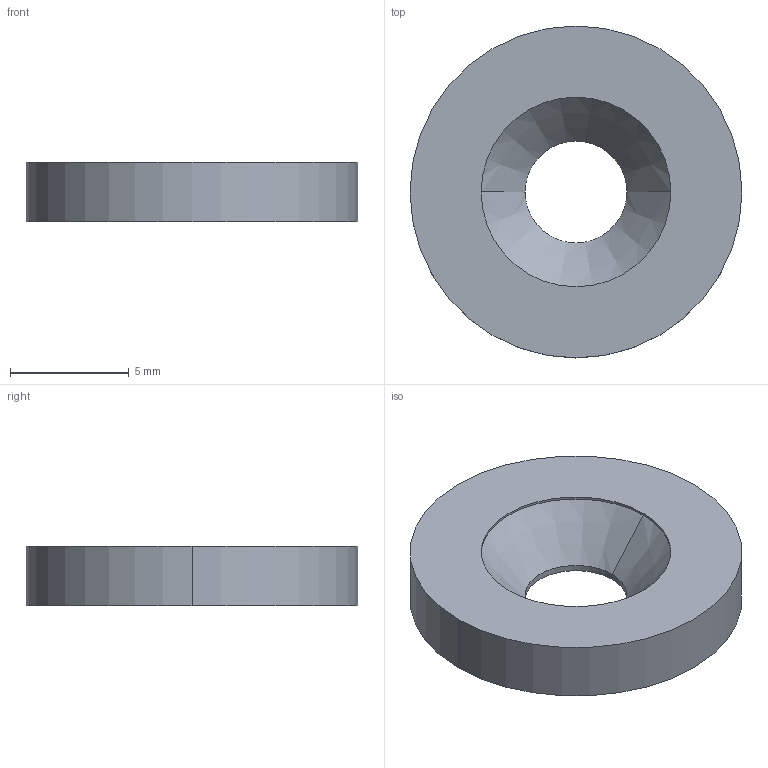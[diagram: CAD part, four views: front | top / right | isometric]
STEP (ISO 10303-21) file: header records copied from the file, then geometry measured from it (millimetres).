
FILE_DESCRIPTION (( 'STEP AP214' ), '1' );
FILE_NAME ('嵗嬥俙 兂14_2.5mm岤M4.STEP', '2024-08-20T02:30:54', ( '' ), ( '' ), 'SwSTEP 2.0', 'SolidWorks 2023', '' );
FILE_SCHEMA (( 'AUTOMOTIVE_DESIGN' ));
Length unit declared in the file: millimetre
Products named in the file (1): 座金Ａ Φ14_2.5mm厚M4
Bounding box: 14 x 14 x 2.5 mm (x, y, z)
Volume: 310.8 mm3; surface area: 413.7 mm2
Topology: 1 solids, 1 shells, 10 faces, 20 edges, 12 vertices
Faces by surface type: cylinder 6, cone 2, plane 2
Entity records: 291 total; most frequent: DIRECTION 54, CARTESIAN_POINT 43, ORIENTED_EDGE 40, AXIS2_PLACEMENT_3D 23, EDGE_CURVE 20, VERTEX_POINT 12, EDGE_LOOP 12, CIRCLE 12
